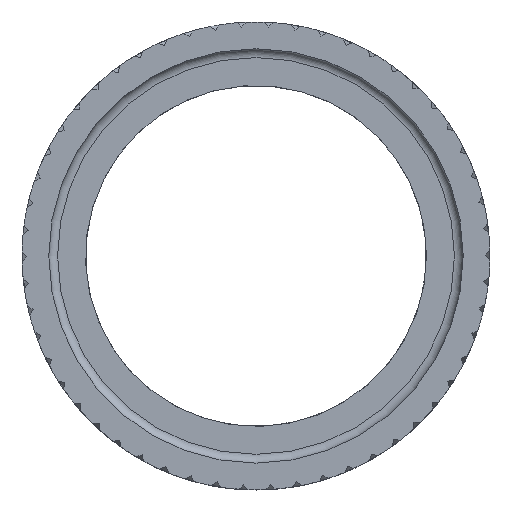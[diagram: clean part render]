
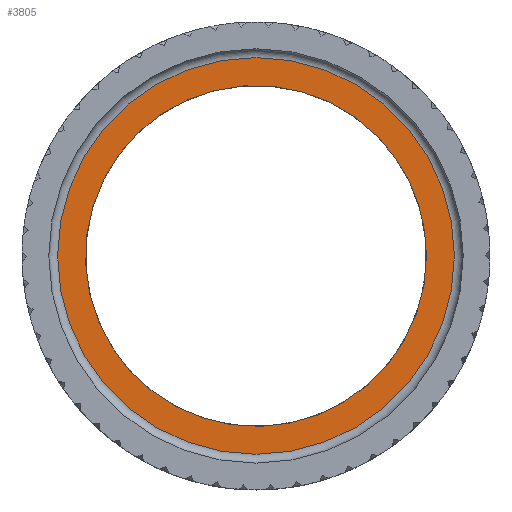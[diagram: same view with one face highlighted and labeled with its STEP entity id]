
A CAD part, top view. The second image highlights one B-rep face of the part: STEP entity #3805.
In plain terms, the highlighted planar face has unit normal (0, 0, 1).
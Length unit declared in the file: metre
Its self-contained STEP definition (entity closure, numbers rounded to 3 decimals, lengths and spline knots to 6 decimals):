
#752=ORIENTED_EDGE('',*,*,#2058,.T.);
#753=ORIENTED_EDGE('',*,*,#2059,.T.);
#2058=EDGE_CURVE('',#2711,#2711,#3149,.F.);
#2059=EDGE_CURVE('',#2712,#2712,#3150,.T.);
#2711=VERTEX_POINT('',#4678);
#2712=VERTEX_POINT('',#4680);
#3149=CIRCLE('',#4044,0.03375);
#3150=CIRCLE('',#4045,0.029);
#3267=EDGE_LOOP('',(#752));
#3268=EDGE_LOOP('',(#753));
#3502=FACE_BOUND('',#3267,.T.);
#3503=FACE_BOUND('',#3268,.T.);
#3737=PLANE('',#4043);
#3805=ADVANCED_FACE('',(#3502,#3503),#3737,.F.);
#4043=AXIS2_PLACEMENT_3D('',#4676,#4239,#4240);
#4044=AXIS2_PLACEMENT_3D('',#4677,#4241,#4242);
#4045=AXIS2_PLACEMENT_3D('',#4679,#4243,#4244);
#4239=DIRECTION('',(0.,0.,-1.));
#4240=DIRECTION('',(0.819,0.574,0.));
#4241=DIRECTION('',(0.,0.,-1.));
#4242=DIRECTION('',(1.,0.,0.));
#4243=DIRECTION('',(0.,0.,-1.));
#4244=DIRECTION('',(1.,0.,0.));
#4676=CARTESIAN_POINT('',(0.,0.,0.0758));
#4677=CARTESIAN_POINT('',(0.,0.,0.0758));
#4678=CARTESIAN_POINT('',(0.03375,0.,0.0758));
#4679=CARTESIAN_POINT('',(0.,0.,0.0758));
#4680=CARTESIAN_POINT('',(0.029,0.,0.0758));
